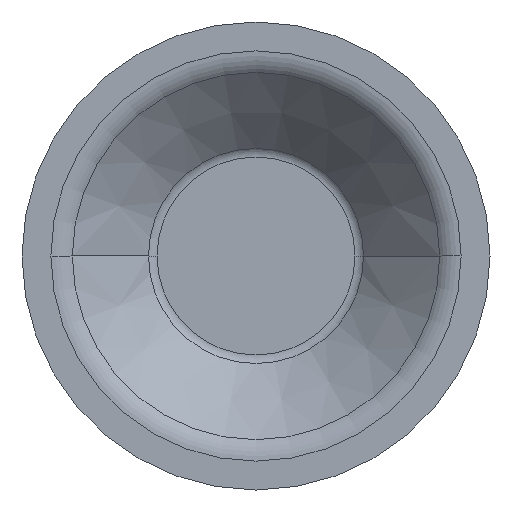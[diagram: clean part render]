
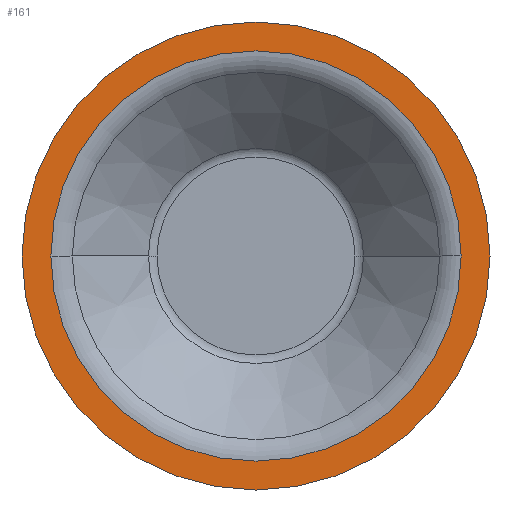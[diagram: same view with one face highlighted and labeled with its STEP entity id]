
A CAD part, front view. The second image highlights one B-rep face of the part: STEP entity #161.
In plain terms, the highlighted planar face has unit normal (0, -1, 0).
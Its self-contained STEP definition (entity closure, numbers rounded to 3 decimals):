
#32 = FACE_BOUND ( 'NONE', #1375, .T. ) ;
#96 = DIRECTION ( 'NONE',  ( 0., -1., 0. ) ) ;
#129 = CARTESIAN_POINT ( 'NONE',  ( -33.312, -17., 0. ) ) ;
#161 = ADVANCED_FACE ( 'NONE', ( #32, #1181 ), #283, .T. ) ;
#195 = VERTEX_POINT ( 'NONE', #1530 ) ;
#200 = VERTEX_POINT ( 'NONE', #1406 ) ;
#204 = ORIENTED_EDGE ( 'NONE', *, *, #1136, .T. ) ;
#283 = PLANE ( 'NONE',  #1438 ) ;
#301 = CARTESIAN_POINT ( 'NONE',  ( 38., -17., 0. ) ) ;
#318 = EDGE_CURVE ( 'NONE', #195, #200, #1498, .T. ) ;
#327 = ORIENTED_EDGE ( 'NONE', *, *, #755, .F. ) ;
#362 = DIRECTION ( 'NONE',  ( -1., 0., 0. ) ) ;
#410 = DIRECTION ( 'NONE',  ( 0., -1., 0. ) ) ;
#432 = EDGE_LOOP ( 'NONE', ( #204, #1308 ) ) ;
#469 = ORIENTED_EDGE ( 'NONE', *, *, #913, .F. ) ;
#509 = CARTESIAN_POINT ( 'NONE',  ( 0., -17., 0. ) ) ;
#530 = DIRECTION ( 'NONE',  ( 1., 0., 0. ) ) ;
#546 = DIRECTION ( 'NONE',  ( 1., 0., 0. ) ) ;
#666 = DIRECTION ( 'NONE',  ( 0., -1., 0. ) ) ;
#678 = VERTEX_POINT ( 'NONE', #129 ) ;
#709 = VERTEX_POINT ( 'NONE', #1128 ) ;
#731 = CARTESIAN_POINT ( 'NONE',  ( 0., -17., 0. ) ) ;
#755 = EDGE_CURVE ( 'NONE', #709, #678, #1076, .T. ) ;
#773 = AXIS2_PLACEMENT_3D ( 'NONE', #509, #1177, #1304 ) ;
#808 = CIRCLE ( 'NONE', #907, 33.312 ) ;
#907 = AXIS2_PLACEMENT_3D ( 'NONE', #731, #96, #362 ) ;
#913 = EDGE_CURVE ( 'NONE', #678, #709, #808, .T. ) ;
#1076 = CIRCLE ( 'NONE', #1106, 33.312 ) ;
#1106 = AXIS2_PLACEMENT_3D ( 'NONE', #1316, #666, #1552 ) ;
#1128 = CARTESIAN_POINT ( 'NONE',  ( 33.312, -17., 0. ) ) ;
#1136 = EDGE_CURVE ( 'NONE', #200, #195, #1230, .T. ) ;
#1141 = AXIS2_PLACEMENT_3D ( 'NONE', #1542, #410, #546 ) ;
#1172 = DIRECTION ( 'NONE',  ( 0., -1., 0. ) ) ;
#1177 = DIRECTION ( 'NONE',  ( 0., -1., 0. ) ) ;
#1181 = FACE_OUTER_BOUND ( 'NONE', #432, .T. ) ;
#1230 = CIRCLE ( 'NONE', #1141, 38. ) ;
#1304 = DIRECTION ( 'NONE',  ( 1., 0., 0. ) ) ;
#1308 = ORIENTED_EDGE ( 'NONE', *, *, #318, .T. ) ;
#1316 = CARTESIAN_POINT ( 'NONE',  ( 0., -17., 0. ) ) ;
#1375 = EDGE_LOOP ( 'NONE', ( #469, #327 ) ) ;
#1406 = CARTESIAN_POINT ( 'NONE',  ( 38., -17., 0. ) ) ;
#1438 = AXIS2_PLACEMENT_3D ( 'NONE', #301, #1172, #530 ) ;
#1498 = CIRCLE ( 'NONE', #773, 38. ) ;
#1530 = CARTESIAN_POINT ( 'NONE',  ( -38., -17., 0. ) ) ;
#1542 = CARTESIAN_POINT ( 'NONE',  ( 0., -17., 0. ) ) ;
#1552 = DIRECTION ( 'NONE',  ( -1., 0., 0. ) ) ;
